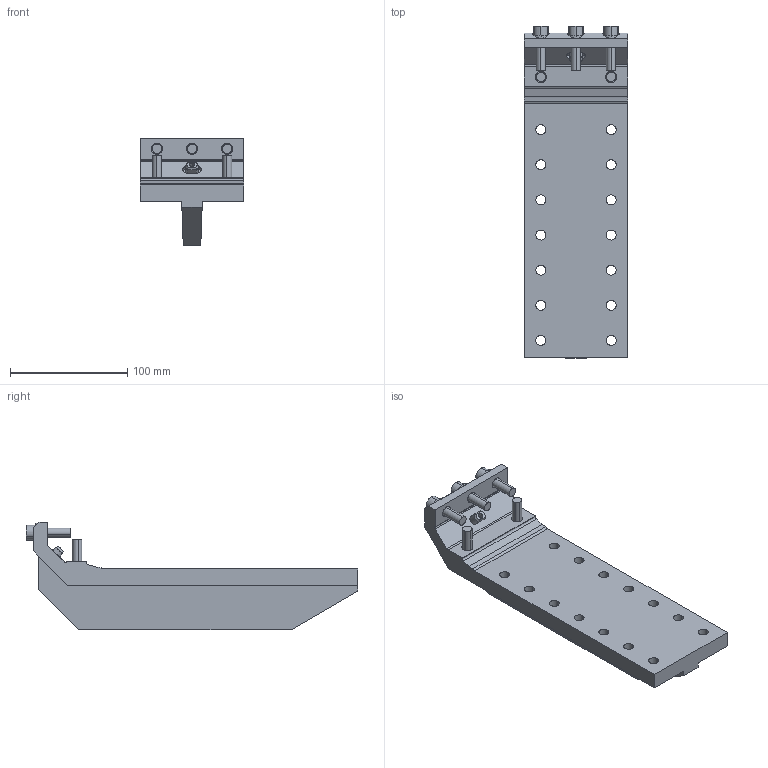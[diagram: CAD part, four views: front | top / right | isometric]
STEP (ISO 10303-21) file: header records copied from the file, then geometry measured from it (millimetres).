
FILE_DESCRIPTION(('STEP AP214'),'1');
FILE_NAME('EGT233_1_1725993_SEITENANB_RIP_AU_SW50.CATPart.stp','2015-09-14T13:14:38',('3D-Tool'),(' '),'Spatial InterOp 3D',' ',' ');
FILE_SCHEMA(('automotive_design'));
Length unit declared in the file: millimetre
Products named in the file (7): EGT233_1_1725993_SEITENANB_RIP_AU_SW50|EGT233_1_SEITENANB_RIP_AU_SW50|Bohrbearbeitung; EGT233_1_1725993_SEITENANB_RIP_AU_SW50|Schraube_M8x30.1|Solid.25; EGT233_1_1725993_SEITENANB_RIP_AU_SW50|Schraube_M8x30.2|Solid.26; EGT233_1_1725993_SEITENANB_RIP_AU_SW50|Schraube_M8x30.3|Solid.27; EGT233_1_1725993_SEITENANB_RIP_AU_SW50|Schraube_M8x30.4|Solid.28; EGT233_1_1725993_SEITENANB_RIP_AU_SW50|Schraube_M8x30.5|Solid.29; EGT233_1_1725993_SEITENANB_RIP_AU_SW50|EGT_212|Solid.35
Bounding box: 88 x 283.5 x 92 mm (x, y, z)
Volume: 518010.1 mm3; surface area: 96891.5 mm2
Topology: 7 solids, 7 shells, 237 faces, 630 edges, 415 vertices
Faces by surface type: cylinder 174, plane 57, cone 6
Entity records: 9753 total; most frequent: DIRECTION 1454, CARTESIAN_POINT 1407, ORIENTED_EDGE 1252, EDGE_CURVE 626, AXIS2_PLACEMENT_3D 596, VERTEX_POINT 415, CIRCLE 352, EDGE_LOOP 289
